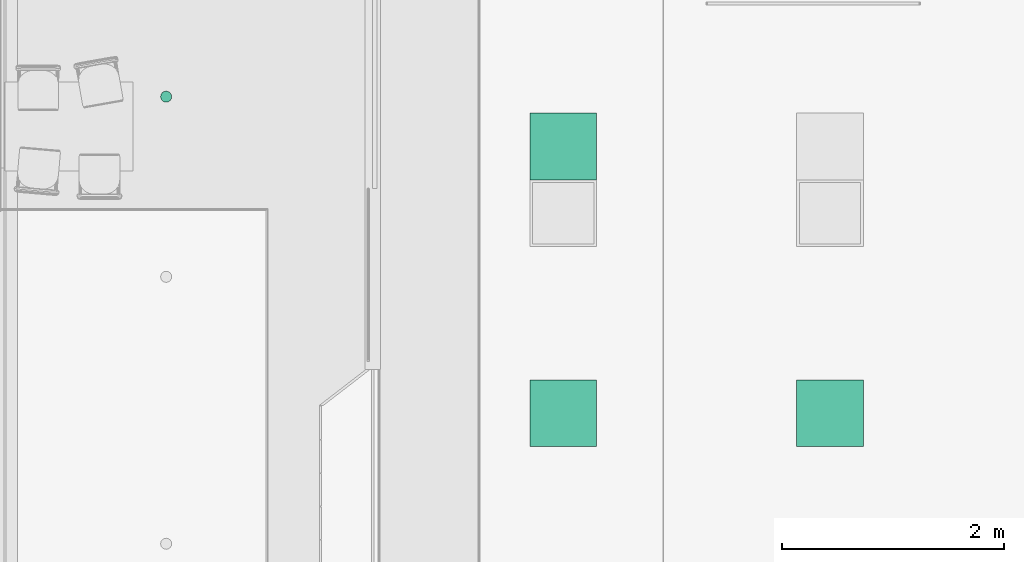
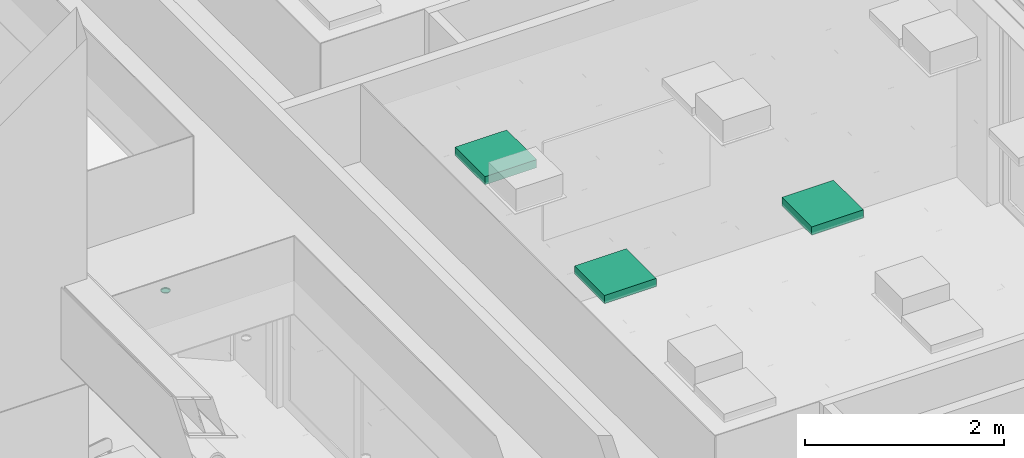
# One storey, part 250 of 347: 4 flow terminals.
"""IFC2X3 building model written with IfcOpenShell, lengths in millimetres."""

import ifcopenshell
import ifcopenshell.guid

model = None  # the IFC model being written
_history = None  # IfcOwnerHistory: only IFC2X3 demands one
_inside = {}  # id of a spatial element -> (the spatial element, [elements in it])
_under = {}  # id of a project, library or spatial element -> (it, [spatial elements below it])
_declared = {}  # id of a project -> (the project, [libraries it declares])
_typed = {}  # id of a type object -> (the type object, [elements of that type])
_made_of = {}  # id of a material, layer set ... -> (it, [elements and type objects made of it])


def new_model(schema):
    """Start an empty IFC model of exactly this schema.

    Asked for "IFC4X3", IfcOpenShell would pick the latest addendum, in which some entities
    have other attributes; the version numbers below select the first issue.
    IFC2X3 requires an IfcOwnerHistory on every rooted entity: one is made here for all.
    """
    global model, _history
    if schema == "IFC4X3":
        model = ifcopenshell.file(schema_version=(4, 3, 0, 0))
    else:
        model = ifcopenshell.file(schema=schema)
    _inside.clear()
    _under.clear()
    _declared.clear()
    _typed.clear()
    _made_of.clear()
    _history = None
    if model.schema == "IFC2X3":
        org = make("IfcOrganization", Name="unknown")
        user = make(
            "IfcPersonAndOrganization",
            ThePerson=make("IfcPerson", FamilyName="unknown"),
            TheOrganization=org,
        )
        app = make(
            "IfcApplication",
            ApplicationDeveloper=org,
            Version="unknown",
            ApplicationFullName="unknown",
            ApplicationIdentifier="unknown",
        )
        _history = make(
            "IfcOwnerHistory",
            OwningUser=user,
            OwningApplication=app,
            ChangeAction="ADDED",
            CreationDate=0,
        )
    return model


def make(cls, **values):
    """One entity of the class cls with the attributes given. An attribute that is None is left unset."""
    return model.create_entity(
        cls, **{name: value for name, value in values.items() if value is not None}
    )


def entity(cls, *values):
    """Any entity or typed value of the class cls, its attributes in the order of the schema. None: left unset."""
    e = model.create_entity(cls)
    for i, value in enumerate(values):
        if value is not None:
            e[i] = value
    return e


def rooted(cls, **values):
    """An entity with a GlobalId (a new one), such as an element, a storey or a relation."""
    return make(cls, GlobalId=ifcopenshell.guid.new(), OwnerHistory=_history, **values)


def si_unit(unit_type, name, prefix=None):
    """IfcSIUnit, for example si_unit("LENGTHUNIT", "METRE", prefix="MILLI")."""
    return make("IfcSIUnit", UnitType=unit_type, Prefix=prefix, Name=name)


def converted_unit(unit_type, name, factor, base, dimensions=None, offset=None):
    """IfcConversionBasedUnit, such as the inch: factor (a typed value) times the base unit."""
    return make(
        "IfcConversionBasedUnit"
        if offset is None
        else "IfcConversionBasedUnitWithOffset",
        ConversionOffset=offset,
        Dimensions=None
        if dimensions is None
        else entity("IfcDimensionalExponents", *dimensions),
        UnitType=unit_type,
        Name=name,
        ConversionFactor=make(
            "IfcMeasureWithUnit", ValueComponent=factor, UnitComponent=base
        ),
    )


def derived_unit(unit_type, elements):
    """IfcDerivedUnit: a product of units, each with its exponent."""
    return make(
        "IfcDerivedUnit",
        Elements=[
            make("IfcDerivedUnitElement", Unit=unit, Exponent=power)
            for unit, power in elements
        ],
        UnitType=unit_type,
    )


def money_unit(currency):
    """IfcMonetaryUnit."""
    return make("IfcMonetaryUnit", Currency=currency)


def assignment(units):
    """IfcUnitAssignment: the units of a project."""
    return None if units is None else make("IfcUnitAssignment", Units=units)


def point(xyz):
    """IfcCartesianPoint."""
    return None if xyz is None else make("IfcCartesianPoint", Coordinates=xyz)


def direction(xyz):
    """IfcDirection."""
    return None if xyz is None else make("IfcDirection", DirectionRatios=xyz)


def frame(location, z_axis=None, x_axis=None):
    """IfcAxis2Placement3D, a coordinate frame: its origin and axes. An axis left out is left unset."""
    return make(
        "IfcAxis2Placement3D",
        Location=point(location),
        Axis=direction(z_axis),
        RefDirection=direction(x_axis),
    )


def origin_with_axes():
    """The frame at (0, 0, 0) with the z axis (0, 0, 1) and the x axis (1, 0, 0) written out."""
    return frame((0.0, 0.0, 0.0), z_axis=(0.0, 0.0, 1.0), x_axis=(1.0, 0.0, 0.0))


def place(relative_to, where):
    """IfcLocalPlacement: puts the frame where relative to a parent placement (None: the world)."""
    return make(
        "IfcLocalPlacement", PlacementRelTo=relative_to, RelativePlacement=where
    )


def context(
    kind, dimensions, precision=None, world=None, true_north=None, identifier=None
):
    """IfcGeometricRepresentationContext, for example the 3D "Model" context."""
    return make(
        "IfcGeometricRepresentationContext",
        ContextIdentifier=identifier,
        ContextType=kind,
        CoordinateSpaceDimension=dimensions,
        Precision=precision,
        WorldCoordinateSystem=world,
        TrueNorth=true_north,
    )


def subcontext(parent, identifier, kind, view, scale=None):
    """IfcGeometricRepresentationSubContext, for example "Body" below "Model"."""
    return make(
        "IfcGeometricRepresentationSubContext",
        ContextIdentifier=identifier,
        ContextType=kind,
        ParentContext=parent,
        TargetScale=scale,
        TargetView=view,
    )


def project(units=None, contexts=None):
    """IfcProject with its units and contexts."""
    return rooted(
        "IfcProject",
        Name="project",
        RepresentationContexts=contexts,
        UnitsInContext=assignment(units),
    )


def spatial(cls, under=None, at=None, **own):
    """A site, building, storey or space (cls), placed at a placement, below another one or the project."""
    s = rooted(cls, ObjectPlacement=at, **own)
    if under is not None:
        _under.setdefault(under.id(), (under, []))[1].append(s)
    return s


def faces_of(points, faces, orient=None, outer=None):
    """IfcFace entities. A face is a list of loops; a loop is a list of indices into points, from 0.

    orient and outer hold one flag for each loop. By default every Orientation is true, the
    first loop of a face is its IfcFaceOuterBound and the others are IfcFaceBound.
    """
    made = []
    for i, loops in enumerate(faces):
        bounds = []
        for j, loop in enumerate(loops):
            is_outer = j == 0 if outer is None else outer[i][j]
            bounds.append(
                make(
                    "IfcFaceOuterBound" if is_outer else "IfcFaceBound",
                    Bound=make("IfcPolyLoop", Polygon=[points[k] for k in loop]),
                    Orientation=True if orient is None else orient[i][j],
                )
            )
        made.append(make("IfcFace", Bounds=bounds))
    return made


def open_shell(faces, orient=None, outer=None):
    """The faces of one IfcOpenShell. surface_model builds it on its shared points."""
    return ("IfcOpenShell", faces, orient, outer)


def faceted_brep(points, faces, orient=None, outer=None, voids=None):
    """IfcFacetedBrep: a solid bounded by flat faces; with voids (closed shells), ...WithVoids."""
    shared = [point(p) for p in points]
    hull = make("IfcClosedShell", CfsFaces=faces_of(shared, faces, orient, outer))
    if voids is None:
        return make("IfcFacetedBrep", Outer=hull)
    return make(
        "IfcFacetedBrepWithVoids",
        Outer=hull,
        Voids=[
            make(cls, CfsFaces=faces_of(shared, fs, o, b)) for cls, fs, o, b in voids
        ],
    )


def surface_model(cls, points, shells):
    """IfcFaceBasedSurfaceModel or IfcShellBasedSurfaceModel (cls): surfaces that need not close."""
    shared = [point(p) for p in points]
    made = [make(c, CfsFaces=faces_of(shared, fs, o, b)) for c, fs, o, b in shells]
    if cls == "IfcFaceBasedSurfaceModel":
        return make(cls, FbsmFaces=made)
    return make(cls, SbsmBoundary=made)


def shape(context_of_items, identifier, shape_type, items):
    """IfcShapeRepresentation: the items that make up one representation, for example the "Body"."""
    return make(
        "IfcShapeRepresentation",
        ContextOfItems=context_of_items,
        RepresentationIdentifier=identifier,
        RepresentationType=shape_type,
        Items=items,
    )


def source(mapping_origin, context_of_items, identifier, shape_type, items):
    """IfcRepresentationMap: a shape defined once, which mapped items show again and again."""
    return make(
        "IfcRepresentationMap",
        MappingOrigin=mapping_origin,
        MappedRepresentation=shape(context_of_items, identifier, shape_type, items),
    )


def transform(
    local_origin,
    x_axis=None,
    y_axis=None,
    z_axis=None,
    scale=None,
    scale2=None,
    scale3=None,
    uniform=True,
):
    """IfcCartesianTransformationOperator3D, or its non-uniform kind. x_axis, y_axis, z_axis: its Axis1, 2, 3."""
    if uniform:
        return make(
            "IfcCartesianTransformationOperator3D",
            Axis1=direction(x_axis),
            Axis2=direction(y_axis),
            LocalOrigin=point(local_origin),
            Scale=scale,
            Axis3=direction(z_axis),
        )
    return make(
        "IfcCartesianTransformationOperator3DnonUniform",
        Axis1=direction(x_axis),
        Axis2=direction(y_axis),
        LocalOrigin=point(local_origin),
        Scale=scale,
        Axis3=direction(z_axis),
        Scale2=scale2,
        Scale3=scale3,
    )


def mapped(mapping_source, mapping_target):
    """IfcMappedItem: shows the shape of a source again, moved by a transform."""
    return make(
        "IfcMappedItem", MappingSource=mapping_source, MappingTarget=mapping_target
    )


def made_of(thing, what):
    """Note that an element or type object is made of a material, layer set ...; save() writes the relation."""
    if what is not None:
        _made_of.setdefault(what.id(), (what, []))[1].append(thing)
    return thing


def type_object(cls, material=None, **own):
    """A type object (cls), such as IfcWallType, which elements share."""
    return made_of(rooted(cls, **own), material)


def type_shapes(of_type, sources):
    """Give a type object the sources (RepresentationMaps) that its elements show as mapped items."""
    of_type.RepresentationMaps = sources


def element(
    cls,
    number,
    at=None,
    inside=None,
    cuts=None,
    type_object=None,
    material=None,
    context=None,
    identifier="Body",
    shape_type=None,
    held_by="IfcProductDefinitionShape",
    body=None,
    shapes=None,
    **own,
):
    """One element of the class cls, such as IfcWall. Its Tag is "e" and its number.

    at: its placement. inside: the storey or other place that contains it. cuts: it is an
    opening in that element (IfcRelVoidsElement). A single representation is given by context,
    identifier, shape_type and body (its items); several are given by shapes. held_by: the class
    of the entity that holds the representations. save() writes the other relations.
    """
    e = rooted(cls, Tag="e%d" % number, ObjectPlacement=at, **own)
    if body is not None:
        shapes = [shape(context, identifier, shape_type, body)]
    if shapes is not None:
        e.Representation = make(held_by, Representations=shapes)
    if inside is not None:
        _inside.setdefault(inside.id(), (inside, []))[1].append(e)
    if cuts is not None:
        rooted(
            "IfcRelVoidsElement", RelatingBuildingElement=cuts, RelatedOpeningElement=e
        )
    if type_object is not None:
        _typed.setdefault(type_object.id(), (type_object, []))[1].append(e)
    return made_of(e, material)


def aggregate(whole, parts):
    """IfcRelAggregates: a whole, such as a stair, and the parts it consists of."""
    return rooted("IfcRelAggregates", RelatingObject=whole, RelatedObjects=parts)


def save(model, path):
    """Write the relations noted so far, then the file.

    IfcRelAggregates (storeys below a building ...), IfcRelContainedInSpatialStructure (elements
    in a storey), IfcRelDefinesByType, IfcRelAssociatesMaterial and IfcRelDeclares: one each for
    every whole, place, type object, material and project.
    """
    for whole, parts in _under.values():
        aggregate(whole, parts)
    for where, things in _inside.values():
        rooted(
            "IfcRelContainedInSpatialStructure",
            RelatedElements=things,
            RelatingStructure=where,
        )
    for kind, things in _typed.values():
        rooted("IfcRelDefinesByType", RelatedObjects=things, RelatingType=kind)
    for what, things in _made_of.values():
        rooted("IfcRelAssociatesMaterial", RelatedObjects=things, RelatingMaterial=what)
    for by, libraries in _declared.values():
        rooted("IfcRelDeclares", RelatingContext=by, RelatedDefinitions=libraries)
    model.write(path)


model = new_model("IFC2X3")

# Units and contexts
model_context = context("Model", 3, precision=0.01, world=origin_with_axes(), true_north=direction((0.0, 1.0)))
plan_context = context("Plan", 3, precision=0.01, world=origin_with_axes(), true_north=direction((0.0, 1.0)))
body_context = subcontext(model_context, "Body", "Model", "MODEL_VIEW")
ifc_project = project(units=[si_unit("LENGTHUNIT", "METRE", prefix="MILLI"), si_unit("AREAUNIT", "SQUARE_METRE"), si_unit("VOLUMEUNIT", "CUBIC_METRE"), converted_unit("PLANEANGLEUNIT", "DEGREE", entity("IfcPlaneAngleMeasure", 0.0174532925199), si_unit("PLANEANGLEUNIT", "RADIAN"), dimensions=[0, 0, 0, 0, 0, 0, 0]), money_unit("EUR"), converted_unit("TIMEUNIT", "Year", entity("IfcTimeMeasure", 31556926.0), si_unit("TIMEUNIT", "SECOND"), dimensions=[0, 0, 1, 0, 0, 0, 0]), si_unit("MASSUNIT", "GRAM", prefix="KILO"), si_unit("THERMODYNAMICTEMPERATUREUNIT", "DEGREE_CELSIUS"), si_unit("LUMINOUSINTENSITYUNIT", "LUMEN"), si_unit("ENERGYUNIT", "JOULE", prefix="MEGA"), derived_unit("THERMALCONDUCTANCEUNIT", [(si_unit("POWERUNIT", "WATT"), 1), (si_unit("LENGTHUNIT", "METRE"), -1), (si_unit("THERMODYNAMICTEMPERATUREUNIT", "KELVIN"), -1)]), derived_unit("SPECIFICHEATCAPACITYUNIT", [(si_unit("ENERGYUNIT", "JOULE"), 1), (si_unit("MASSUNIT", "GRAM", prefix="KILO"), -1), (si_unit("THERMODYNAMICTEMPERATUREUNIT", "KELVIN"), -1)]), derived_unit("MASSDENSITYUNIT", [(si_unit("MASSUNIT", "GRAM", prefix="KILO"), 1), (si_unit("VOLUMEUNIT", "CUBIC_METRE"), -1)])], contexts=[model_context, plan_context])

# Site, building, storey
site_placement = place(None, origin_with_axes())
site = spatial("IfcSite", under=ifc_project, at=site_placement, Name="Site", CompositionType="ELEMENT")
building_placement = place(site_placement, origin_with_axes())
building = spatial("IfcBuilding", under=site, at=building_placement, Name="Naam gebouw", CompositionType="ELEMENT")
storey_placement = place(building_placement, origin_with_axes())
storey = spatial("IfcBuildingStorey", under=building, at=storey_placement, Name="begane grond", CompositionType="ELEMENT", Elevation=0.0)

# Flow terminals
lamp_type_1 = type_object("IfcLampType", Name="Spot plafond 01 25", PredefinedType="NOTDEFINED")
shared_shape_1 = source(origin_with_axes(), body_context, "Body", "SurfaceModel", [
    faceted_brep([(50.0, 0.0, -10.0), (46.1939766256, 19.1341716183, -10.0), (46.1939766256, 19.1341716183, 0.0), (50.0, 0.0, 0.0), (46.1939766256, -19.1341716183, -10.0), (35.3553390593, -35.3553390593, -10.0), (19.1341716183, -46.1939766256, -10.0), (0.0, -50.0, -10.0), (-19.1341716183, -46.1939766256, -10.0), (-35.3553390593, -35.3553390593, -10.0), (-46.1939766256, -19.1341716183, -10.0), (-50.0, 0.0, -10.0), (-46.1939766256, 19.1341716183, -10.0), (-35.3553390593, 35.3553390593, -10.0), (-19.1341716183, 46.1939766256, -10.0), (0.0, 50.0, -10.0), (19.1341716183, 46.1939766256, -10.0), (35.3553390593, 35.3553390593, -10.0), (40.0, 0.0, -10.0), (36.9551813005, 15.3073372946, -10.0), (28.2842712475, 28.2842712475, -10.0), (15.3073372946, 36.9551813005, -10.0), (0.0, 40.0, -10.0), (-15.3073372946, 36.9551813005, -10.0), (-28.2842712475, 28.2842712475, -10.0), (-36.9551813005, 15.3073372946, -10.0), (-40.0, 0.0, -10.0), (-36.9551813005, -15.3073372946, -10.0), (-28.2842712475, -28.2842712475, -10.0), (-15.3073372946, -36.9551813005, -10.0), (0.0, -40.0, -10.0), (15.3073372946, -36.9551813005, -10.0), (28.2842712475, -28.2842712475, -10.0), (36.9551813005, -15.3073372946, -10.0), (35.3553390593, 35.3553390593, 0.0), (19.1341716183, 46.1939766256, 0.0), (0.0, 50.0, 0.0), (-19.1341716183, 46.1939766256, 0.0), (-35.3553390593, 35.3553390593, 0.0), (-46.1939766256, 19.1341716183, 0.0), (-50.0, 0.0, 0.0), (-46.1939766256, -19.1341716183, 0.0), (-35.3553390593, -35.3553390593, 0.0), (-19.1341716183, -46.1939766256, 0.0), (0.0, -50.0, 0.0), (19.1341716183, -46.1939766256, 0.0), (35.3553390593, -35.3553390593, 0.0), (46.1939766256, -19.1341716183, 0.0), (40.0, 0.0, 0.0), (36.9551813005, -15.3073372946, 0.0), (28.2842712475, -28.2842712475, 0.0), (15.3073372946, -36.9551813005, 0.0), (0.0, -40.0, 0.0), (-15.3073372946, -36.9551813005, 0.0), (-28.2842712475, -28.2842712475, 0.0), (-36.9551813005, -15.3073372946, 0.0), (-40.0, 0.0, 0.0), (-36.9551813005, 15.3073372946, 0.0), (-28.2842712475, 28.2842712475, 0.0), (-15.3073372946, 36.9551813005, 0.0), (0.0, 40.0, 0.0), (15.3073372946, 36.9551813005, 0.0), (28.2842712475, 28.2842712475, 0.0), (36.9551813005, 15.3073372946, 0.0)], [[[0, 1, 2, 3]], [[0, 4, 5, 6, 7, 8, 9, 10, 11, 12, 13, 14, 15, 16, 17, 1], [18, 19, 20, 21, 22, 23, 24, 25, 26, 27, 28, 29, 30, 31, 32, 33]], [[1, 17, 34, 2]], [[3, 2, 34, 35, 36, 37, 38, 39, 40, 41, 42, 43, 44, 45, 46, 47], [48, 49, 50, 51, 52, 53, 54, 55, 56, 57, 58, 59, 60, 61, 62, 63]], [[4, 0, 3, 47]], [[5, 4, 47, 46]], [[6, 5, 46, 45]], [[7, 6, 45, 44]], [[8, 7, 44, 43]], [[9, 8, 43, 42]], [[10, 9, 42, 41]], [[11, 10, 41, 40]], [[12, 11, 40, 39]], [[13, 12, 39, 38]], [[14, 13, 38, 37]], [[15, 14, 37, 36]], [[16, 15, 36, 35]], [[17, 16, 35, 34]], [[19, 18, 48, 63]], [[20, 19, 63, 62]], [[21, 20, 62, 61]], [[22, 21, 61, 60]], [[23, 22, 60, 59]], [[24, 23, 59, 58]], [[25, 24, 58, 57]], [[26, 25, 57, 56]], [[27, 26, 56, 55]], [[28, 27, 55, 54]], [[29, 28, 54, 53]], [[30, 29, 53, 52]], [[31, 30, 52, 51]], [[32, 31, 51, 50]], [[33, 32, 50, 49]], [[18, 33, 49, 48]]]),
    surface_model("IfcShellBasedSurfaceModel", [(40.0, 0.0, -8.9), (36.9551813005, -15.3073372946, -8.9), (28.2842712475, -28.2842712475, -8.9), (15.3073372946, -36.9551813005, -8.9), (0.0, -40.0, -8.9), (-15.3073372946, -36.9551813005, -8.9), (-28.2842712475, -28.2842712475, -8.9), (-36.9551813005, -15.3073372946, -8.9), (-40.0, 0.0, -8.9), (-36.9551813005, 15.3073372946, -8.9), (-28.2842712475, 28.2842712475, -8.9), (-15.3073372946, 36.9551813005, -8.9), (0.0, 40.0, -8.9), (15.3073372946, 36.9551813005, -8.9), (28.2842712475, 28.2842712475, -8.9), (36.9551813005, 15.3073372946, -8.9)], [open_shell([[[0, 1, 2, 3, 4, 5, 6, 7, 8, 9, 10, 11, 12, 13, 14, 15]]])]),
])
type_shapes(lamp_type_1, [shared_shape_1])
flow_terminal_placement = place(storey_placement, frame((46155.0000003, 26960.0, 2600.0), z_axis=(0.0, 0.0, 1.0), x_axis=(1.0, 0.0, 0.0)))
element("IfcFlowTerminal", 1, at=flow_terminal_placement, inside=storey, type_object=lamp_type_1, Name="63_Lamp-x", ObjectType="Lamp", context=body_context, shape_type="MappedRepresentation", body=[
    mapped(shared_shape_1, transform((0.0, 0.0, 0.0))),
])
lamp_type_2 = type_object("IfcLampType", Name="TL plafond 25", PredefinedType="NOTDEFINED")
shared_shape_2 = source(origin_with_axes(), body_context, "Body", "SurfaceModel", [
    faceted_brep([(0.0, 0.0, -100.0), (600.0, 0.0, -100.0), (600.0, 0.0, 0.0), (0.0, 0.0, 0.0), (0.0, 600.0, -100.0), (600.0, 600.0, -100.0), (40.0, 40.0, -100.0), (560.0, 40.0, -100.0), (560.0, 560.0, -100.0), (40.0, 560.0, -100.0), (600.0, 600.0, 0.0), (0.0, 600.0, 0.0), (40.0, 40.0, 0.0), (40.0, 560.0, 0.0), (560.0, 560.0, 0.0), (560.0, 40.0, 0.0)], [[[0, 1, 2, 3]], [[0, 4, 5, 1], [6, 7, 8, 9]], [[1, 5, 10, 2]], [[3, 2, 10, 11], [12, 13, 14, 15]], [[4, 0, 3, 11]], [[5, 4, 11, 10]], [[7, 6, 12, 15]], [[8, 7, 15, 14]], [[9, 8, 14, 13]], [[6, 9, 13, 12]]]),
    faceted_brep([(40.0, 40.0, -16.3333333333), (560.0, 40.0, -16.3333333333), (560.0, 40.0, 0.0), (40.0, 40.0, 0.0), (40.0, 560.0, -16.3333333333), (560.0, 560.0, -16.3333333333), (560.0, 560.0, 0.0), (40.0, 560.0, 0.0)], [[[0, 1, 2, 3]], [[0, 4, 5, 1]], [[1, 5, 6, 2]], [[3, 2, 6, 7]], [[4, 0, 3, 7]], [[5, 4, 7, 6]]]),
    surface_model("IfcShellBasedSurfaceModel", [(559.0, 41.0, -100.0), (40.0, 41.0, -100.0), (40.0, 559.0, -100.0), (559.0, 559.0, -100.0)], [open_shell([[[0, 1, 2, 3]]])]),
    faceted_brep([(40.0, 40.0, -100.0), (560.0, 40.0, -100.0), (560.0, 40.0, -60.0), (40.0, 40.0, -60.0), (40.0, 560.0, -100.0), (560.0, 560.0, -100.0), (41.0, 41.0, -100.0), (559.0, 41.0, -100.0), (559.0, 559.0, -100.0), (41.0, 559.0, -100.0), (560.0, 560.0, -60.0), (40.0, 560.0, -60.0), (41.0, 41.0, -60.0), (41.0, 559.0, -60.0), (559.0, 559.0, -60.0), (559.0, 41.0, -60.0)], [[[0, 1, 2, 3]], [[0, 4, 5, 1], [6, 7, 8, 9]], [[1, 5, 10, 2]], [[3, 2, 10, 11], [12, 13, 14, 15]], [[4, 0, 3, 11]], [[5, 4, 11, 10]], [[7, 6, 12, 15]], [[8, 7, 15, 14]], [[9, 8, 14, 13]], [[6, 9, 13, 12]]]),
    faceted_brep([(40.0, 144.0, -48.3333333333), (40.0, 149.740251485, -47.191526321), (560.0, 149.740251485, -47.191526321), (560.0, 144.0, -48.3333333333), (40.0, 138.259748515, -47.191526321), (40.0, 133.393398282, -43.9399350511), (40.0, 130.141807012, -39.0735848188), (40.0, 129.0, -33.3333333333), (40.0, 130.141807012, -27.5930818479), (40.0, 133.393398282, -22.7267316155), (40.0, 138.259748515, -19.4751403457), (40.0, 144.0, -18.3333333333), (40.0, 149.740251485, -19.4751403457), (40.0, 154.606601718, -22.7267316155), (40.0, 157.858192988, -27.5930818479), (40.0, 159.0, -33.3333333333), (40.0, 157.858192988, -39.0735848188), (40.0, 154.606601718, -43.9399350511), (40.0, 144.0, -46.3333333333), (40.0, 148.974884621, -45.343767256), (40.0, 153.192388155, -42.5257214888), (40.0, 156.010433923, -38.3082179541), (40.0, 157.0, -33.3333333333), (40.0, 156.010433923, -28.3584487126), (40.0, 153.192388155, -24.1409451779), (40.0, 148.974884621, -21.3228994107), (40.0, 144.0, -20.3333333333), (40.0, 139.025115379, -21.3228994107), (40.0, 134.807611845, -24.1409451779), (40.0, 131.989566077, -28.3584487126), (40.0, 131.0, -33.3333333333), (40.0, 131.989566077, -38.3082179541), (40.0, 134.807611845, -42.5257214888), (40.0, 139.025115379, -45.343767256), (560.0, 154.606601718, -43.9399350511), (560.0, 157.858192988, -39.0735848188), (560.0, 159.0, -33.3333333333), (560.0, 157.858192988, -27.5930818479), (560.0, 154.606601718, -22.7267316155), (560.0, 149.740251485, -19.4751403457), (560.0, 144.0, -18.3333333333), (560.0, 138.259748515, -19.4751403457), (560.0, 133.393398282, -22.7267316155), (560.0, 130.141807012, -27.5930818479), (560.0, 129.0, -33.3333333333), (560.0, 130.141807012, -39.0735848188), (560.0, 133.393398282, -43.9399350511), (560.0, 138.259748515, -47.191526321), (560.0, 144.0, -46.3333333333), (560.0, 139.025115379, -45.343767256), (560.0, 134.807611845, -42.5257214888), (560.0, 131.989566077, -38.3082179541), (560.0, 131.0, -33.3333333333), (560.0, 131.989566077, -28.3584487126), (560.0, 134.807611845, -24.1409451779), (560.0, 139.025115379, -21.3228994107), (560.0, 144.0, -20.3333333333), (560.0, 148.974884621, -21.3228994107), (560.0, 153.192388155, -24.1409451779), (560.0, 156.010433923, -28.3584487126), (560.0, 157.0, -33.3333333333), (560.0, 156.010433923, -38.3082179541), (560.0, 153.192388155, -42.5257214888), (560.0, 148.974884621, -45.343767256)], [[[0, 1, 2, 3]], [[0, 4, 5, 6, 7, 8, 9, 10, 11, 12, 13, 14, 15, 16, 17, 1], [18, 19, 20, 21, 22, 23, 24, 25, 26, 27, 28, 29, 30, 31, 32, 33]], [[1, 17, 34, 2]], [[3, 2, 34, 35, 36, 37, 38, 39, 40, 41, 42, 43, 44, 45, 46, 47], [48, 49, 50, 51, 52, 53, 54, 55, 56, 57, 58, 59, 60, 61, 62, 63]], [[4, 0, 3, 47]], [[5, 4, 47, 46]], [[6, 5, 46, 45]], [[7, 6, 45, 44]], [[8, 7, 44, 43]], [[9, 8, 43, 42]], [[10, 9, 42, 41]], [[11, 10, 41, 40]], [[12, 11, 40, 39]], [[13, 12, 39, 38]], [[14, 13, 38, 37]], [[15, 14, 37, 36]], [[16, 15, 36, 35]], [[17, 16, 35, 34]], [[19, 18, 48, 63]], [[20, 19, 63, 62]], [[21, 20, 62, 61]], [[22, 21, 61, 60]], [[23, 22, 60, 59]], [[24, 23, 59, 58]], [[25, 24, 58, 57]], [[26, 25, 57, 56]], [[27, 26, 56, 55]], [[28, 27, 55, 54]], [[29, 28, 54, 53]], [[30, 29, 53, 52]], [[31, 30, 52, 51]], [[32, 31, 51, 50]], [[33, 32, 50, 49]], [[18, 33, 49, 48]]]),
    faceted_brep([(40.0, 248.0, -48.3333333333), (40.0, 253.740251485, -47.191526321), (560.0, 253.740251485, -47.191526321), (560.0, 248.0, -48.3333333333), (40.0, 242.259748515, -47.191526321), (40.0, 237.393398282, -43.9399350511), (40.0, 234.141807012, -39.0735848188), (40.0, 233.0, -33.3333333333), (40.0, 234.141807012, -27.5930818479), (40.0, 237.393398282, -22.7267316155), (40.0, 242.259748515, -19.4751403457), (40.0, 248.0, -18.3333333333), (40.0, 253.740251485, -19.4751403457), (40.0, 258.606601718, -22.7267316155), (40.0, 261.858192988, -27.5930818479), (40.0, 263.0, -33.3333333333), (40.0, 261.858192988, -39.0735848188), (40.0, 258.606601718, -43.9399350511), (40.0, 248.0, -46.3333333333), (40.0, 252.974884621, -45.343767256), (40.0, 257.192388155, -42.5257214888), (40.0, 260.010433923, -38.3082179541), (40.0, 261.0, -33.3333333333), (40.0, 260.010433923, -28.3584487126), (40.0, 257.192388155, -24.1409451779), (40.0, 252.974884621, -21.3228994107), (40.0, 248.0, -20.3333333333), (40.0, 243.025115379, -21.3228994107), (40.0, 238.807611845, -24.1409451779), (40.0, 235.989566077, -28.3584487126), (40.0, 235.0, -33.3333333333), (40.0, 235.989566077, -38.3082179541), (40.0, 238.807611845, -42.5257214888), (40.0, 243.025115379, -45.343767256), (560.0, 258.606601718, -43.9399350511), (560.0, 261.858192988, -39.0735848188), (560.0, 263.0, -33.3333333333), (560.0, 261.858192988, -27.5930818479), (560.0, 258.606601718, -22.7267316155), (560.0, 253.740251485, -19.4751403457), (560.0, 248.0, -18.3333333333), (560.0, 242.259748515, -19.4751403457), (560.0, 237.393398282, -22.7267316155), (560.0, 234.141807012, -27.5930818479), (560.0, 233.0, -33.3333333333), (560.0, 234.141807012, -39.0735848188), (560.0, 237.393398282, -43.9399350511), (560.0, 242.259748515, -47.191526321), (560.0, 248.0, -46.3333333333), (560.0, 243.025115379, -45.343767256), (560.0, 238.807611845, -42.5257214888), (560.0, 235.989566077, -38.3082179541), (560.0, 235.0, -33.3333333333), (560.0, 235.989566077, -28.3584487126), (560.0, 238.807611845, -24.1409451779), (560.0, 243.025115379, -21.3228994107), (560.0, 248.0, -20.3333333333), (560.0, 252.974884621, -21.3228994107), (560.0, 257.192388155, -24.1409451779), (560.0, 260.010433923, -28.3584487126), (560.0, 261.0, -33.3333333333), (560.0, 260.010433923, -38.3082179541), (560.0, 257.192388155, -42.5257214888), (560.0, 252.974884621, -45.343767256)], [[[0, 1, 2, 3]], [[0, 4, 5, 6, 7, 8, 9, 10, 11, 12, 13, 14, 15, 16, 17, 1], [18, 19, 20, 21, 22, 23, 24, 25, 26, 27, 28, 29, 30, 31, 32, 33]], [[1, 17, 34, 2]], [[3, 2, 34, 35, 36, 37, 38, 39, 40, 41, 42, 43, 44, 45, 46, 47], [48, 49, 50, 51, 52, 53, 54, 55, 56, 57, 58, 59, 60, 61, 62, 63]], [[4, 0, 3, 47]], [[5, 4, 47, 46]], [[6, 5, 46, 45]], [[7, 6, 45, 44]], [[8, 7, 44, 43]], [[9, 8, 43, 42]], [[10, 9, 42, 41]], [[11, 10, 41, 40]], [[12, 11, 40, 39]], [[13, 12, 39, 38]], [[14, 13, 38, 37]], [[15, 14, 37, 36]], [[16, 15, 36, 35]], [[17, 16, 35, 34]], [[19, 18, 48, 63]], [[20, 19, 63, 62]], [[21, 20, 62, 61]], [[22, 21, 61, 60]], [[23, 22, 60, 59]], [[24, 23, 59, 58]], [[25, 24, 58, 57]], [[26, 25, 57, 56]], [[27, 26, 56, 55]], [[28, 27, 55, 54]], [[29, 28, 54, 53]], [[30, 29, 53, 52]], [[31, 30, 52, 51]], [[32, 31, 51, 50]], [[33, 32, 50, 49]], [[18, 33, 49, 48]]]),
    faceted_brep([(40.0, 352.0, -48.3333333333), (40.0, 357.740251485, -47.191526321), (560.0, 357.740251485, -47.191526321), (560.0, 352.0, -48.3333333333), (40.0, 346.259748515, -47.191526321), (40.0, 341.393398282, -43.9399350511), (40.0, 338.141807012, -39.0735848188), (40.0, 337.0, -33.3333333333), (40.0, 338.141807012, -27.5930818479), (40.0, 341.393398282, -22.7267316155), (40.0, 346.259748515, -19.4751403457), (40.0, 352.0, -18.3333333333), (40.0, 357.740251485, -19.4751403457), (40.0, 362.606601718, -22.7267316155), (40.0, 365.858192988, -27.5930818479), (40.0, 367.0, -33.3333333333), (40.0, 365.858192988, -39.0735848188), (40.0, 362.606601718, -43.9399350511), (40.0, 352.0, -46.3333333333), (40.0, 356.974884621, -45.343767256), (40.0, 361.192388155, -42.5257214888), (40.0, 364.010433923, -38.3082179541), (40.0, 365.0, -33.3333333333), (40.0, 364.010433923, -28.3584487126), (40.0, 361.192388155, -24.1409451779), (40.0, 356.974884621, -21.3228994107), (40.0, 352.0, -20.3333333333), (40.0, 347.025115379, -21.3228994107), (40.0, 342.807611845, -24.1409451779), (40.0, 339.989566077, -28.3584487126), (40.0, 339.0, -33.3333333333), (40.0, 339.989566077, -38.3082179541), (40.0, 342.807611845, -42.5257214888), (40.0, 347.025115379, -45.343767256), (560.0, 362.606601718, -43.9399350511), (560.0, 365.858192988, -39.0735848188), (560.0, 367.0, -33.3333333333), (560.0, 365.858192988, -27.5930818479), (560.0, 362.606601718, -22.7267316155), (560.0, 357.740251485, -19.4751403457), (560.0, 352.0, -18.3333333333), (560.0, 346.259748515, -19.4751403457), (560.0, 341.393398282, -22.7267316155), (560.0, 338.141807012, -27.5930818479), (560.0, 337.0, -33.3333333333), (560.0, 338.141807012, -39.0735848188), (560.0, 341.393398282, -43.9399350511), (560.0, 346.259748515, -47.191526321), (560.0, 352.0, -46.3333333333), (560.0, 347.025115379, -45.343767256), (560.0, 342.807611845, -42.5257214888), (560.0, 339.989566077, -38.3082179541), (560.0, 339.0, -33.3333333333), (560.0, 339.989566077, -28.3584487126), (560.0, 342.807611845, -24.1409451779), (560.0, 347.025115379, -21.3228994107), (560.0, 352.0, -20.3333333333), (560.0, 356.974884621, -21.3228994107), (560.0, 361.192388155, -24.1409451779), (560.0, 364.010433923, -28.3584487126), (560.0, 365.0, -33.3333333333), (560.0, 364.010433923, -38.3082179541), (560.0, 361.192388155, -42.5257214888), (560.0, 356.974884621, -45.343767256)], [[[0, 1, 2, 3]], [[0, 4, 5, 6, 7, 8, 9, 10, 11, 12, 13, 14, 15, 16, 17, 1], [18, 19, 20, 21, 22, 23, 24, 25, 26, 27, 28, 29, 30, 31, 32, 33]], [[1, 17, 34, 2]], [[3, 2, 34, 35, 36, 37, 38, 39, 40, 41, 42, 43, 44, 45, 46, 47], [48, 49, 50, 51, 52, 53, 54, 55, 56, 57, 58, 59, 60, 61, 62, 63]], [[4, 0, 3, 47]], [[5, 4, 47, 46]], [[6, 5, 46, 45]], [[7, 6, 45, 44]], [[8, 7, 44, 43]], [[9, 8, 43, 42]], [[10, 9, 42, 41]], [[11, 10, 41, 40]], [[12, 11, 40, 39]], [[13, 12, 39, 38]], [[14, 13, 38, 37]], [[15, 14, 37, 36]], [[16, 15, 36, 35]], [[17, 16, 35, 34]], [[19, 18, 48, 63]], [[20, 19, 63, 62]], [[21, 20, 62, 61]], [[22, 21, 61, 60]], [[23, 22, 60, 59]], [[24, 23, 59, 58]], [[25, 24, 58, 57]], [[26, 25, 57, 56]], [[27, 26, 56, 55]], [[28, 27, 55, 54]], [[29, 28, 54, 53]], [[30, 29, 53, 52]], [[31, 30, 52, 51]], [[32, 31, 51, 50]], [[33, 32, 50, 49]], [[18, 33, 49, 48]]]),
    faceted_brep([(40.0, 456.0, -48.3333333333), (40.0, 461.740251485, -47.191526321), (560.0, 461.740251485, -47.191526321), (560.0, 456.0, -48.3333333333), (40.0, 450.259748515, -47.191526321), (40.0, 445.393398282, -43.9399350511), (40.0, 442.141807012, -39.0735848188), (40.0, 441.0, -33.3333333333), (40.0, 442.141807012, -27.5930818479), (40.0, 445.393398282, -22.7267316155), (40.0, 450.259748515, -19.4751403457), (40.0, 456.0, -18.3333333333), (40.0, 461.740251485, -19.4751403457), (40.0, 466.606601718, -22.7267316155), (40.0, 469.858192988, -27.5930818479), (40.0, 471.0, -33.3333333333), (40.0, 469.858192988, -39.0735848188), (40.0, 466.606601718, -43.9399350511), (40.0, 456.0, -46.3333333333), (40.0, 460.974884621, -45.343767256), (40.0, 465.192388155, -42.5257214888), (40.0, 468.010433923, -38.3082179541), (40.0, 469.0, -33.3333333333), (40.0, 468.010433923, -28.3584487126), (40.0, 465.192388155, -24.1409451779), (40.0, 460.974884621, -21.3228994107), (40.0, 456.0, -20.3333333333), (40.0, 451.025115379, -21.3228994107), (40.0, 446.807611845, -24.1409451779), (40.0, 443.989566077, -28.3584487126), (40.0, 443.0, -33.3333333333), (40.0, 443.989566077, -38.3082179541), (40.0, 446.807611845, -42.5257214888), (40.0, 451.025115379, -45.343767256), (560.0, 466.606601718, -43.9399350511), (560.0, 469.858192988, -39.0735848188), (560.0, 471.0, -33.3333333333), (560.0, 469.858192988, -27.5930818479), (560.0, 466.606601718, -22.7267316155), (560.0, 461.740251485, -19.4751403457), (560.0, 456.0, -18.3333333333), (560.0, 450.259748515, -19.4751403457), (560.0, 445.393398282, -22.7267316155), (560.0, 442.141807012, -27.5930818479), (560.0, 441.0, -33.3333333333), (560.0, 442.141807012, -39.0735848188), (560.0, 445.393398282, -43.9399350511), (560.0, 450.259748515, -47.191526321), (560.0, 456.0, -46.3333333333), (560.0, 451.025115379, -45.343767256), (560.0, 446.807611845, -42.5257214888), (560.0, 443.989566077, -38.3082179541), (560.0, 443.0, -33.3333333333), (560.0, 443.989566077, -28.3584487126), (560.0, 446.807611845, -24.1409451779), (560.0, 451.025115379, -21.3228994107), (560.0, 456.0, -20.3333333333), (560.0, 460.974884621, -21.3228994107), (560.0, 465.192388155, -24.1409451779), (560.0, 468.010433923, -28.3584487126), (560.0, 469.0, -33.3333333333), (560.0, 468.010433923, -38.3082179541), (560.0, 465.192388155, -42.5257214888), (560.0, 460.974884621, -45.343767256)], [[[0, 1, 2, 3]], [[0, 4, 5, 6, 7, 8, 9, 10, 11, 12, 13, 14, 15, 16, 17, 1], [18, 19, 20, 21, 22, 23, 24, 25, 26, 27, 28, 29, 30, 31, 32, 33]], [[1, 17, 34, 2]], [[3, 2, 34, 35, 36, 37, 38, 39, 40, 41, 42, 43, 44, 45, 46, 47], [48, 49, 50, 51, 52, 53, 54, 55, 56, 57, 58, 59, 60, 61, 62, 63]], [[4, 0, 3, 47]], [[5, 4, 47, 46]], [[6, 5, 46, 45]], [[7, 6, 45, 44]], [[8, 7, 44, 43]], [[9, 8, 43, 42]], [[10, 9, 42, 41]], [[11, 10, 41, 40]], [[12, 11, 40, 39]], [[13, 12, 39, 38]], [[14, 13, 38, 37]], [[15, 14, 37, 36]], [[16, 15, 36, 35]], [[17, 16, 35, 34]], [[19, 18, 48, 63]], [[20, 19, 63, 62]], [[21, 20, 62, 61]], [[22, 21, 61, 60]], [[23, 22, 60, 59]], [[24, 23, 59, 58]], [[25, 24, 58, 57]], [[26, 25, 57, 56]], [[27, 26, 56, 55]], [[28, 27, 55, 54]], [[29, 28, 54, 53]], [[30, 29, 53, 52]], [[31, 30, 52, 51]], [[32, 31, 51, 50]], [[33, 32, 50, 49]], [[18, 33, 49, 48]]]),
])
type_shapes(lamp_type_2, [shared_shape_2])
for number, where, z_axis, x_axis, name in (
    (2, (49425.0, 23812.5, 3295.0), (0.0, 0.0, 1.0), (1.0, 0.0, 0.0), "63_Lamp-x"),
    (3, (49425.0, 26212.5, 3295.0), (0.0, 0.0, 1.0), (1.0, 0.0, 0.0), "63_Lamp-x"),
    (4, (51825.0, 23812.5, 3295.0), (0.0, 0.0, 1.0), (1.0, 0.0, 0.0), "63_Lamp-x"),
):
    element("IfcFlowTerminal", number, at=place(storey_placement, frame(where, z_axis=z_axis, x_axis=x_axis)), inside=storey, type_object=lamp_type_2, Name=name, ObjectType="Lamp", context=body_context, shape_type="MappedRepresentation", body=[
        mapped(shared_shape_2, transform((0.0, 0.0, 0.0))),
    ])

save(model, "model.ifc")
